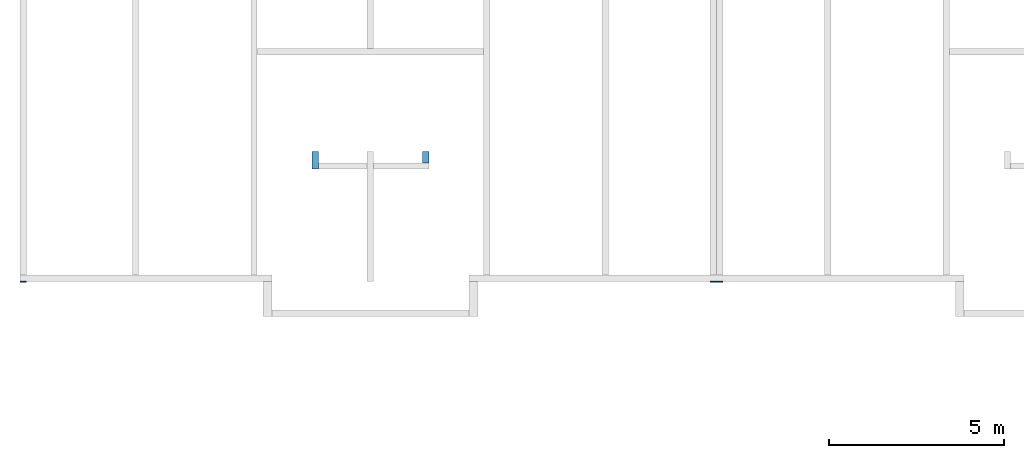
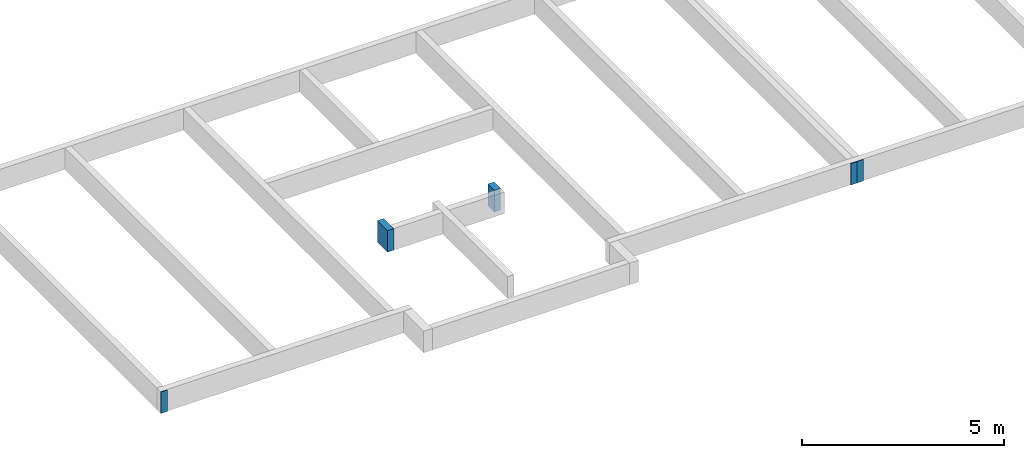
# One storey, part 2 of 6: 5 walls.
"""IFC2X3 building model written with IfcOpenShell, lengths in millimetres."""

import ifcopenshell
import ifcopenshell.guid

model = None  # the IFC model being written
_history = None  # IfcOwnerHistory: only IFC2X3 demands one
_inside = {}  # id of a spatial element -> (the spatial element, [elements in it])
_under = {}  # id of a project, library or spatial element -> (it, [spatial elements below it])
_declared = {}  # id of a project -> (the project, [libraries it declares])
_typed = {}  # id of a type object -> (the type object, [elements of that type])
_made_of = {}  # id of a material, layer set ... -> (it, [elements and type objects made of it])


def new_model(schema):
    """Start an empty IFC model of exactly this schema.

    Asked for "IFC4X3", IfcOpenShell would pick the latest addendum, in which some entities
    have other attributes; the version numbers below select the first issue.
    IFC2X3 requires an IfcOwnerHistory on every rooted entity: one is made here for all.
    """
    global model, _history
    if schema == "IFC4X3":
        model = ifcopenshell.file(schema_version=(4, 3, 0, 0))
    else:
        model = ifcopenshell.file(schema=schema)
    _inside.clear()
    _under.clear()
    _declared.clear()
    _typed.clear()
    _made_of.clear()
    _history = None
    if model.schema == "IFC2X3":
        org = make("IfcOrganization", Name="unknown")
        user = make(
            "IfcPersonAndOrganization",
            ThePerson=make("IfcPerson", FamilyName="unknown"),
            TheOrganization=org,
        )
        app = make(
            "IfcApplication",
            ApplicationDeveloper=org,
            Version="unknown",
            ApplicationFullName="unknown",
            ApplicationIdentifier="unknown",
        )
        _history = make(
            "IfcOwnerHistory",
            OwningUser=user,
            OwningApplication=app,
            ChangeAction="ADDED",
            CreationDate=0,
        )
    return model


def make(cls, **values):
    """One entity of the class cls with the attributes given. An attribute that is None is left unset."""
    return model.create_entity(
        cls, **{name: value for name, value in values.items() if value is not None}
    )


def entity(cls, *values):
    """Any entity or typed value of the class cls, its attributes in the order of the schema. None: left unset."""
    e = model.create_entity(cls)
    for i, value in enumerate(values):
        if value is not None:
            e[i] = value
    return e


def rooted(cls, **values):
    """An entity with a GlobalId (a new one), such as an element, a storey or a relation."""
    return make(cls, GlobalId=ifcopenshell.guid.new(), OwnerHistory=_history, **values)


def si_unit(unit_type, name, prefix=None):
    """IfcSIUnit, for example si_unit("LENGTHUNIT", "METRE", prefix="MILLI")."""
    return make("IfcSIUnit", UnitType=unit_type, Prefix=prefix, Name=name)


def converted_unit(unit_type, name, factor, base, dimensions=None, offset=None):
    """IfcConversionBasedUnit, such as the inch: factor (a typed value) times the base unit."""
    return make(
        "IfcConversionBasedUnit"
        if offset is None
        else "IfcConversionBasedUnitWithOffset",
        ConversionOffset=offset,
        Dimensions=None
        if dimensions is None
        else entity("IfcDimensionalExponents", *dimensions),
        UnitType=unit_type,
        Name=name,
        ConversionFactor=make(
            "IfcMeasureWithUnit", ValueComponent=factor, UnitComponent=base
        ),
    )


def assignment(units):
    """IfcUnitAssignment: the units of a project."""
    return None if units is None else make("IfcUnitAssignment", Units=units)


def point(xyz):
    """IfcCartesianPoint."""
    return None if xyz is None else make("IfcCartesianPoint", Coordinates=xyz)


def direction(xyz):
    """IfcDirection."""
    return None if xyz is None else make("IfcDirection", DirectionRatios=xyz)


def frame(location, z_axis=None, x_axis=None):
    """IfcAxis2Placement3D, a coordinate frame: its origin and axes. An axis left out is left unset."""
    return make(
        "IfcAxis2Placement3D",
        Location=point(location),
        Axis=direction(z_axis),
        RefDirection=direction(x_axis),
    )


def frame_2d(location, x_axis=None):
    """IfcAxis2Placement2D, a coordinate frame in the plane: its origin and x axis."""
    return make(
        "IfcAxis2Placement2D", Location=point(location), RefDirection=direction(x_axis)
    )


def origin():
    """The frame at (0, 0, 0) with its axes left unset."""
    return frame((0.0, 0.0, 0.0))


def origin_with_axes():
    """The frame at (0, 0, 0) with the z axis (0, 0, 1) and the x axis (1, 0, 0) written out."""
    return frame((0.0, 0.0, 0.0), z_axis=(0.0, 0.0, 1.0), x_axis=(1.0, 0.0, 0.0))


def place(relative_to, where):
    """IfcLocalPlacement: puts the frame where relative to a parent placement (None: the world)."""
    return make(
        "IfcLocalPlacement", PlacementRelTo=relative_to, RelativePlacement=where
    )


def context(
    kind, dimensions, precision=None, world=None, true_north=None, identifier=None
):
    """IfcGeometricRepresentationContext, for example the 3D "Model" context."""
    return make(
        "IfcGeometricRepresentationContext",
        ContextIdentifier=identifier,
        ContextType=kind,
        CoordinateSpaceDimension=dimensions,
        Precision=precision,
        WorldCoordinateSystem=world,
        TrueNorth=true_north,
    )


def subcontext(parent, identifier, kind, view, scale=None):
    """IfcGeometricRepresentationSubContext, for example "Body" below "Model"."""
    return make(
        "IfcGeometricRepresentationSubContext",
        ContextIdentifier=identifier,
        ContextType=kind,
        ParentContext=parent,
        TargetScale=scale,
        TargetView=view,
    )


def project(units=None, contexts=None):
    """IfcProject with its units and contexts."""
    return rooted(
        "IfcProject",
        Name="project",
        RepresentationContexts=contexts,
        UnitsInContext=assignment(units),
    )


def spatial(cls, under=None, at=None, **own):
    """A site, building, storey or space (cls), placed at a placement, below another one or the project."""
    s = rooted(cls, ObjectPlacement=at, **own)
    if under is not None:
        _under.setdefault(under.id(), (under, []))[1].append(s)
    return s


def profile(cls, at=None, kind="AREA", **sizes):
    """A parametric profile (cls). Its sizes go by their IFC names, for example OverallWidth=200.0."""
    return make(cls, ProfileType=kind, Position=at, **sizes)


def rectangle(**sizes):
    """IfcRectangleProfileDef."""
    return profile("IfcRectangleProfileDef", **sizes)


def extrude(swept, where, along, depth):
    """IfcExtrudedAreaSolid: the profile swept, set in the frame where, extruded along a direction by depth."""
    return make(
        "IfcExtrudedAreaSolid",
        SweptArea=swept,
        Position=where,
        ExtrudedDirection=direction(along),
        Depth=depth,
    )


def shape(context_of_items, identifier, shape_type, items):
    """IfcShapeRepresentation: the items that make up one representation, for example the "Body"."""
    return make(
        "IfcShapeRepresentation",
        ContextOfItems=context_of_items,
        RepresentationIdentifier=identifier,
        RepresentationType=shape_type,
        Items=items,
    )


def material(Name=None, Category=None):
    """IfcMaterial."""
    return make("IfcMaterial", Name=Name, Category=Category)


def layer(
    of_material, thickness, ventilated=None, Name=None, Category=None, Priority=None
):
    """IfcMaterialLayer: one layer of a wall or slab, of a material (None: an air gap)."""
    return make(
        "IfcMaterialLayer",
        Material=of_material,
        LayerThickness=thickness,
        IsVentilated=ventilated,
        Name=Name,
        Category=Category,
        Priority=Priority,
    )


def layer_set(layers, Name=None):
    """IfcMaterialLayerSet."""
    return make("IfcMaterialLayerSet", MaterialLayers=layers, LayerSetName=Name)


def layer_usage(for_layer_set, set_direction, sense, offset, extent=None):
    """IfcMaterialLayerSetUsage: how a layer set lies in its element."""
    return make(
        "IfcMaterialLayerSetUsage",
        ForLayerSet=for_layer_set,
        LayerSetDirection=set_direction,
        DirectionSense=sense,
        OffsetFromReferenceLine=offset,
        ReferenceExtent=extent,
    )


def made_of(thing, what):
    """Note that an element or type object is made of a material, layer set ...; save() writes the relation."""
    if what is not None:
        _made_of.setdefault(what.id(), (what, []))[1].append(thing)
    return thing


def element(
    cls,
    number,
    at=None,
    inside=None,
    cuts=None,
    type_object=None,
    material=None,
    context=None,
    identifier="Body",
    shape_type=None,
    held_by="IfcProductDefinitionShape",
    body=None,
    shapes=None,
    **own,
):
    """One element of the class cls, such as IfcWall. Its Tag is "e" and its number.

    at: its placement. inside: the storey or other place that contains it. cuts: it is an
    opening in that element (IfcRelVoidsElement). A single representation is given by context,
    identifier, shape_type and body (its items); several are given by shapes. held_by: the class
    of the entity that holds the representations. save() writes the other relations.
    """
    e = rooted(cls, Tag="e%d" % number, ObjectPlacement=at, **own)
    if body is not None:
        shapes = [shape(context, identifier, shape_type, body)]
    if shapes is not None:
        e.Representation = make(held_by, Representations=shapes)
    if inside is not None:
        _inside.setdefault(inside.id(), (inside, []))[1].append(e)
    if cuts is not None:
        rooted(
            "IfcRelVoidsElement", RelatingBuildingElement=cuts, RelatedOpeningElement=e
        )
    if type_object is not None:
        _typed.setdefault(type_object.id(), (type_object, []))[1].append(e)
    return made_of(e, material)


def aggregate(whole, parts):
    """IfcRelAggregates: a whole, such as a stair, and the parts it consists of."""
    return rooted("IfcRelAggregates", RelatingObject=whole, RelatedObjects=parts)


def save(model, path):
    """Write the relations noted so far, then the file.

    IfcRelAggregates (storeys below a building ...), IfcRelContainedInSpatialStructure (elements
    in a storey), IfcRelDefinesByType, IfcRelAssociatesMaterial and IfcRelDeclares: one each for
    every whole, place, type object, material and project.
    """
    for whole, parts in _under.values():
        aggregate(whole, parts)
    for where, things in _inside.values():
        rooted(
            "IfcRelContainedInSpatialStructure",
            RelatedElements=things,
            RelatingStructure=where,
        )
    for kind, things in _typed.values():
        rooted("IfcRelDefinesByType", RelatedObjects=things, RelatingType=kind)
    for what, things in _made_of.values():
        rooted("IfcRelAssociatesMaterial", RelatedObjects=things, RelatingMaterial=what)
    for by, libraries in _declared.values():
        rooted("IfcRelDeclares", RelatingContext=by, RelatedDefinitions=libraries)
    model.write(path)


model = new_model("IFC2X3")

# Units and contexts
model_context = context("Model", 3, precision=1e-05, world=origin())
plan_context = context("Plan", 3, precision=1e-05, world=origin())
body_context = subcontext(model_context, "Body", "Model", "MODEL_VIEW")
ifc_project = project(units=[si_unit("LENGTHUNIT", "METRE", prefix="MILLI"), converted_unit("PLANEANGLEUNIT", "DEGREE", entity("IfcPlaneAngleMeasure", 0.0174532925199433), si_unit("PLANEANGLEUNIT", "RADIAN"), dimensions=[0, 0, 0, 0, 0, 0, 0]), si_unit("AREAUNIT", "SQUARE_METRE"), si_unit("VOLUMEUNIT", "CUBIC_METRE")], contexts=[model_context, plan_context])

# Building, storey
building_placement = place(None, origin())
building = spatial("IfcBuilding", under=ifc_project, at=building_placement, Name="Bâtiment", CompositionType="ELEMENT")
storey_placement = place(building_placement, frame((0.0, 0.0, -850.0), z_axis=(0.0, 0.0, 1.0), x_axis=(1.0, 0.0, 0.0)))
storey = spatial("IfcBuildingStorey", under=building, at=storey_placement, Name="vs", CompositionType="ELEMENT", Elevation=-850.0)

# Walls
ifc_material_1 = material(Name="moellons")
ifc_layer_1 = layer(ifc_material_1, 20.0775509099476)
ifc_layer_set_1 = layer_set([ifc_layer_1])
ifc_layer_usage_1 = layer_usage(ifc_layer_set_1, "AXIS2", "POSITIVE", 0.0)
wall_1_placement = place(storey_placement, frame((-5.557612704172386e-12, 20.0775509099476, 0.0), z_axis=(0.0, 0.0, 1.0), x_axis=(1.0, -1.836970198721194e-16, 0.0)))
element("IfcWallStandardCase", 1, at=wall_1_placement, inside=storey, material=ifc_layer_usage_1, context=body_context, shape_type="SweptSolid", body=[
    extrude(rectangle(XDim=180.0, YDim=20.0775509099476, at=frame_2d((90.0, 10.0387754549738), x_axis=(1.0, 0.0))), frame((0.0, -20.0775509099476, 0.0), z_axis=(0.0, 0.0, 1.0), x_axis=(1.0, 0.0, 0.0)), (0.0, 0.0, 1.0), 650.0),
])
ifc_material_2 = material(Name="moellons")
ifc_layer_2 = layer(ifc_material_2, 20.16279356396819)
ifc_layer_set_2 = layer_set([ifc_layer_2])
ifc_layer_usage_2 = layer_usage(ifc_layer_set_2, "AXIS2", "POSITIVE", 0.0)
wall_2_placement = place(storey_placement, frame((20029.99999999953, 1.818989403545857e-12, 0.0), z_axis=(0.0, 0.0, 1.0), x_axis=(-1.0, 0.0, 0.0)))
element("IfcWallStandardCase", 2, at=wall_2_placement, inside=storey, material=ifc_layer_usage_2, context=body_context, shape_type="SweptSolid", body=[
    extrude(rectangle(XDim=180.0, YDim=20.16279356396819, at=frame_2d((90.0, 10.0813967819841), x_axis=(1.0, 0.0))), frame((0.0, -20.16279356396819, 0.0), z_axis=(0.0, 0.0, 1.0), x_axis=(1.0, 0.0, 0.0)), (0.0, 0.0, 1.0), 650.0),
])
ifc_material_3 = material(Name="moellons")
ifc_layer_3 = layer(ifc_material_3, 20.16279356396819)
ifc_layer_set_3 = layer_set([ifc_layer_3])
ifc_layer_usage_3 = layer_usage(ifc_layer_set_3, "AXIS2", "POSITIVE", 0.0)
wall_3_placement = place(storey_placement, frame((19849.99999999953, 1.818989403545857e-12, 0.0), z_axis=(0.0, 0.0, 1.0), x_axis=(-1.0, 0.0, 0.0)))
element("IfcWallStandardCase", 3, at=wall_3_placement, inside=storey, material=ifc_layer_usage_3, context=body_context, shape_type="SweptSolid", body=[
    extrude(rectangle(XDim=180.0, YDim=20.16279356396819, at=frame_2d((90.0, 10.0813967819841), x_axis=(1.0, 0.0))), frame((0.0, -20.16279356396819, 0.0), z_axis=(0.0, 0.0, 1.0), x_axis=(1.0, 0.0, 0.0)), (0.0, 0.0, 1.0), 650.0),
])
ifc_material_4 = material(Name="moellons")
ifc_layer_4 = layer(ifc_material_4, 180.0)
ifc_layer_set_4 = layer_set([ifc_layer_4])
ifc_layer_usage_4 = layer_usage(ifc_layer_set_4, "AXIS2", "POSITIVE", 0.0)
wall_4_placement = place(storey_placement, frame((8499.999453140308, 3220.077765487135, 0.0), z_axis=(0.0, 0.0, 1.0), x_axis=(0.0, 1.0, 0.0)))
element("IfcWallStandardCase", 4, at=wall_4_placement, inside=storey, material=ifc_layer_usage_4, context=body_context, shape_type="SweptSolid", body=[
    extrude(rectangle(XDim=500.0, YDim=180.0, at=frame_2d((250.0, 90.0), x_axis=(1.0, 0.0))), origin_with_axes(), (0.0, 0.0, 1.0), 650.0),
])
ifc_material_5 = material(Name="moellons")
ifc_layer_5 = layer(ifc_material_5, 180.0)
ifc_layer_set_5 = layer_set([ifc_layer_5])
ifc_layer_usage_5 = layer_usage(ifc_layer_set_5, "AXIS2", "POSITIVE", 0.0)
wall_5_placement = place(storey_placement, frame((11469.99945314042, 3720.077765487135, 0.0), z_axis=(0.0, 0.0, 1.0), x_axis=(0.0, -1.0, 0.0)))
element("IfcWallStandardCase", 5, at=wall_5_placement, inside=storey, material=ifc_layer_usage_5, context=body_context, shape_type="SweptSolid", body=[
    extrude(rectangle(XDim=320.0, YDim=180.0, at=frame_2d((160.0, 90.0), x_axis=(1.0, 0.0))), origin_with_axes(), (0.0, 0.0, 1.0), 650.0),
])

save(model, "model.ifc")
